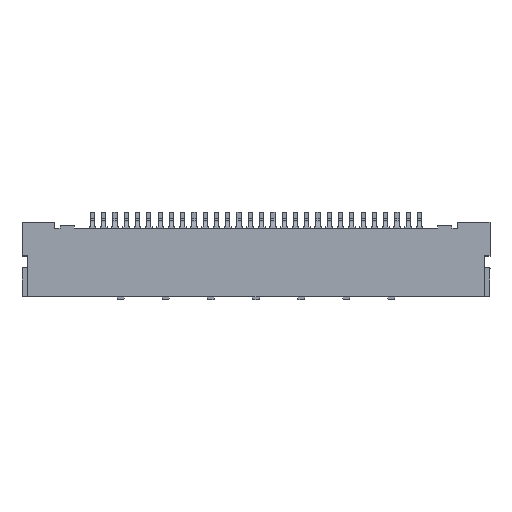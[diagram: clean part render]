
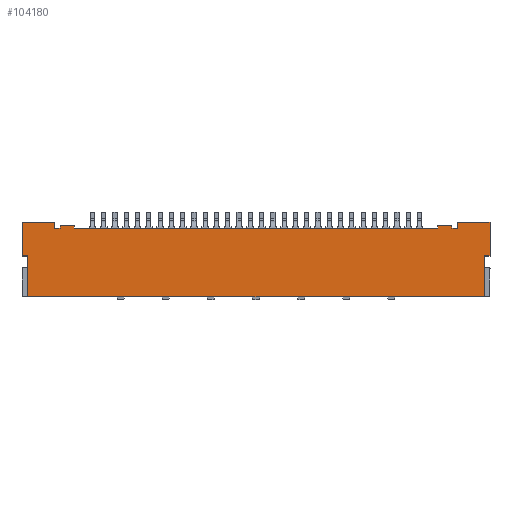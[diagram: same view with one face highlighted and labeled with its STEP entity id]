
A CAD part, top view. The second image highlights one B-rep face of the part: STEP entity #104180.
In plain terms, the highlighted planar face has unit normal (0, 0, 1) as drawn and (0, -1, 0) by its records, which use the part's own axes.
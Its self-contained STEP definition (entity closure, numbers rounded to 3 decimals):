
#4550=CARTESIAN_POINT('',(2.48,-0.25,-12.095));
#4560=VERTEX_POINT('',#4550);
#4590=CARTESIAN_POINT('',(2.48,-0.25,0.));
#4600=DIRECTION('',(0.,-0.,-1.));
#4610=VECTOR('',#4600,1.);
#4620=LINE('',#4590,#4610);
#4630=CARTESIAN_POINT('',(2.48,-0.25,
4.105));
#4640=VERTEX_POINT('',#4630);
#4650=EDGE_CURVE('',#4640,#4560,#4620,.T.);
#6010=CARTESIAN_POINT('',(1.03,-0.25,-12.095));
#6020=VERTEX_POINT('',#6010);
#6050=CARTESIAN_POINT('',(0.,-0.25,-12.095));
#6060=DIRECTION('',(-1.,-0.,-0.));
#6070=VECTOR('',#6060,1.);
#6080=LINE('',#6050,#6070);
#6090=EDGE_CURVE('',#4560,#6020,#6080,.T.);
#7810=CARTESIAN_POINT('',(1.03,-0.25,-12.295));
#7820=VERTEX_POINT('',#7810);
#7850=CARTESIAN_POINT('',(1.03,-0.25,0.));
#7860=DIRECTION('',(0.,-0.,-1.));
#7870=VECTOR('',#7860,1.);
#7880=LINE('',#7850,#7870);
#7890=EDGE_CURVE('',#6020,#7820,#7880,.T.);
#8120=CARTESIAN_POINT('',(-0.17,-0.25,-12.295)
);
#8130=VERTEX_POINT('',#8120);
#8160=CARTESIAN_POINT('',(0.,-0.25,-12.295));
#8170=DIRECTION('',(-1.,-0.,-0.));
#8180=VECTOR('',#8170,1.);
#8190=LINE('',#8160,#8180);
#8200=EDGE_CURVE('',#7820,#8130,#8190,.T.);
#8430=CARTESIAN_POINT('',(-0.17,-0.25,-11.145)
);
#8440=VERTEX_POINT('',#8430);
#8470=CARTESIAN_POINT('',(-0.17,-0.25,0.));
#8480=DIRECTION('',(0.,-0.,1.));
#8490=VECTOR('',#8480,1.);
#8500=LINE('',#8470,#8490);
#8510=EDGE_CURVE('',#8130,#8440,#8500,.T.);
#8740=CARTESIAN_POINT('',(0.05,-0.25,-11.145))
;
#8750=VERTEX_POINT('',#8740);
#8780=CARTESIAN_POINT('',(0.,-0.25,-11.145));
#8790=DIRECTION('',(1.,-0.,-0.));
#8800=VECTOR('',#8790,1.);
#8810=LINE('',#8780,#8800);
#8820=EDGE_CURVE('',#8440,#8750,#8810,.T.);
#9050=CARTESIAN_POINT('',(0.05,-0.25,-10.945))
;
#9060=VERTEX_POINT('',#9050);
#9090=CARTESIAN_POINT('',(0.05,-0.25,0.));
#9100=DIRECTION('',(0.,-0.,1.));
#9110=VECTOR('',#9100,1.);
#9120=LINE('',#9090,#9110);
#9130=EDGE_CURVE('',#8750,#9060,#9120,.T.);
#9360=CARTESIAN_POINT('',(-0.05,-0.25,-10.945)
);
#9370=VERTEX_POINT('',#9360);
#9400=CARTESIAN_POINT('',(0.,-0.25,-10.945));
#9410=DIRECTION('',(-1.,-0.,-0.));
#9420=VECTOR('',#9410,1.);
#9430=LINE('',#9400,#9420);
#9440=EDGE_CURVE('',#9060,#9370,#9430,.T.);
#9670=CARTESIAN_POINT('',(-0.05,-0.25,-10.445)
);
#9680=VERTEX_POINT('',#9670);
#9710=CARTESIAN_POINT('',(-0.05,-0.25,0.));
#9720=DIRECTION('',(0.,-0.,1.));
#9730=VECTOR('',#9720,1.);
#9740=LINE('',#9710,#9730);
#9750=EDGE_CURVE('',#9370,#9680,#9740,.T.);
#9980=CARTESIAN_POINT('',(0.05,-0.25,-10.445))
;
#9990=VERTEX_POINT('',#9980);
#10020=CARTESIAN_POINT('',(0.,-0.25,-10.445));
#10030=DIRECTION('',(1.,-0.,-0.));
#10040=VECTOR('',#10030,1.);
#10050=LINE('',#10020,#10040);
#10060=EDGE_CURVE('',#9680,#9990,#10050,.T.);
#12270=CARTESIAN_POINT('',(0.05,-0.25,0.));
#12280=DIRECTION('',(-0.,-0.,-1.));
#12290=VECTOR('',#12280,1.);
#12300=LINE('',#12270,#12290);
#12310=CARTESIAN_POINT('',(0.05,-0.25,
2.455));
#12320=VERTEX_POINT('',#12310);
#12330=EDGE_CURVE('',#12320,#9990,#12300,.T.);
#20710=CARTESIAN_POINT('',(-0.05,-0.25,
2.455));
#20720=VERTEX_POINT('',#20710);
#20750=CARTESIAN_POINT('',(0.,-0.25,2.455));
#20760=DIRECTION('',(-1.,-0.,0.));
#20770=VECTOR('',#20760,1.);
#20780=LINE('',#20750,#20770);
#20790=EDGE_CURVE('',#12320,#20720,#20780,.T.);
#21020=CARTESIAN_POINT('',(-0.05,-0.25,
2.955));
#21030=VERTEX_POINT('',#21020);
#21060=CARTESIAN_POINT('',(-0.05,-0.25,0.));
#21070=DIRECTION('',(0.,0.,1.));
#21080=VECTOR('',#21070,1.);
#21090=LINE('',#21060,#21080);
#21100=EDGE_CURVE('',#20720,#21030,#21090,.T.);
#21330=CARTESIAN_POINT('',(0.05,-0.25,
2.955));
#21340=VERTEX_POINT('',#21330);
#21370=CARTESIAN_POINT('',(0.,-0.25,2.955));
#21380=DIRECTION('',(1.,0.,0.));
#21390=VECTOR('',#21380,1.);
#21400=LINE('',#21370,#21390);
#21410=EDGE_CURVE('',#21030,#21340,#21400,.T.);
#21640=CARTESIAN_POINT('',(0.05,-0.25,
3.155));
#21650=VERTEX_POINT('',#21640);
#21680=CARTESIAN_POINT('',(0.05,-0.25,0.));
#21690=DIRECTION('',(0.,0.,1.));
#21700=VECTOR('',#21690,1.);
#21710=LINE('',#21680,#21700);
#21720=EDGE_CURVE('',#21340,#21650,#21710,.T.);
#21950=CARTESIAN_POINT('',(-0.17,-0.25,
3.155));
#21960=VERTEX_POINT('',#21950);
#21990=CARTESIAN_POINT('',(0.,-0.25,3.155));
#22000=DIRECTION('',(-1.,-0.,0.));
#22010=VECTOR('',#22000,1.);
#22020=LINE('',#21990,#22010);
#22030=EDGE_CURVE('',#21650,#21960,#22020,.T.);
#22260=CARTESIAN_POINT('',(-0.17,-0.25,
4.305));
#22270=VERTEX_POINT('',#22260);
#22300=CARTESIAN_POINT('',(-0.17,-0.25,0.));
#22310=DIRECTION('',(0.,0.,1.));
#22320=VECTOR('',#22310,1.);
#22330=LINE('',#22300,#22320);
#22340=EDGE_CURVE('',#21960,#22270,#22330,.T.);
#22570=CARTESIAN_POINT('',(1.03,-0.25,
4.305));
#22580=VERTEX_POINT('',#22570);
#22610=CARTESIAN_POINT('',(0.,-0.25,4.305));
#22620=DIRECTION('',(1.,0.,0.));
#22630=VECTOR('',#22620,1.);
#22640=LINE('',#22610,#22630);
#22650=EDGE_CURVE('',#22270,#22580,#22640,.T.);
#22880=CARTESIAN_POINT('',(1.03,-0.25,
4.105));
#22890=VERTEX_POINT('',#22880);
#22920=CARTESIAN_POINT('',(1.03,-0.25,0.));
#22930=DIRECTION('',(0.,-0.,-1.));
#22940=VECTOR('',#22930,1.);
#22950=LINE('',#22920,#22940);
#22960=EDGE_CURVE('',#22580,#22890,#22950,.T.);
#103860=CARTESIAN_POINT('',(2.547,-0.25,
-12.71));
#103870=DIRECTION('',(0.,-1.,0.));
#103880=DIRECTION('',(-1.,-0.,0.));
#103890=AXIS2_PLACEMENT_3D('',#103860,#103870,#103880);
#103900=PLANE('',#103890);
#103910=ORIENTED_EDGE('',*,*,#20790,.F.);
#103920=ORIENTED_EDGE('',*,*,#21100,.F.);
#103930=ORIENTED_EDGE('',*,*,#21410,.F.);
#103940=ORIENTED_EDGE('',*,*,#21720,.F.);
#103950=ORIENTED_EDGE('',*,*,#22030,.F.);
#103960=ORIENTED_EDGE('',*,*,#22340,.F.);
#103970=ORIENTED_EDGE('',*,*,#22650,.F.);
#103980=ORIENTED_EDGE('',*,*,#22960,.F.);
#103990=CARTESIAN_POINT('',(0.,-0.25,4.105));
#104000=DIRECTION('',(1.,0.,0.));
#104010=VECTOR('',#104000,1.);
#104020=LINE('',#103990,#104010);
#104030=EDGE_CURVE('',#22890,#4640,#104020,.T.);
#104040=ORIENTED_EDGE('',*,*,#104030,.F.);
#104050=ORIENTED_EDGE('',*,*,#4650,.F.);
#104060=ORIENTED_EDGE('',*,*,#6090,.F.);
#104070=ORIENTED_EDGE('',*,*,#7890,.F.);
#104080=ORIENTED_EDGE('',*,*,#8200,.F.);
#104090=ORIENTED_EDGE('',*,*,#8510,.F.);
#104100=ORIENTED_EDGE('',*,*,#8820,.F.);
#104110=ORIENTED_EDGE('',*,*,#9130,.F.);
#104120=ORIENTED_EDGE('',*,*,#9440,.F.);
#104130=ORIENTED_EDGE('',*,*,#9750,.F.);
#104140=ORIENTED_EDGE('',*,*,#10060,.F.);
#104150=ORIENTED_EDGE('',*,*,#12330,.T.);
#104160=EDGE_LOOP('',(#104150,#104140,#104130,#104120,#104110,#104100,
#104090,#104080,#104070,#104060,#104050,#104040,#103980,#103970,#103960,
#103950,#103940,#103930,#103920,#103910));
#104170=FACE_OUTER_BOUND('',#104160,.T.);
#104180=ADVANCED_FACE('',(#104170),#103900,.T.);
